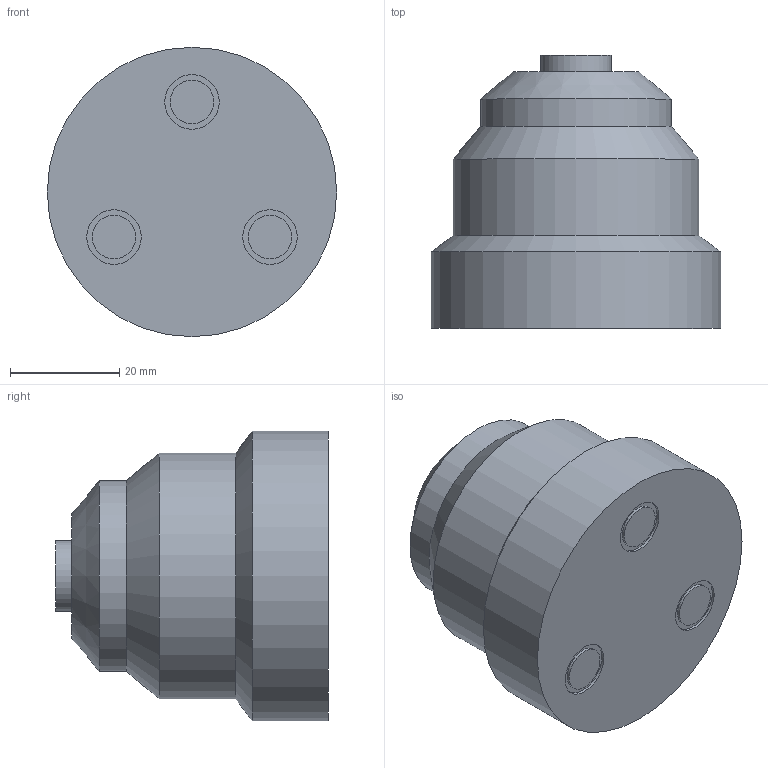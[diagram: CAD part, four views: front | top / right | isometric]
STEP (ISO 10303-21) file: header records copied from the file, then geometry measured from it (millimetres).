
FILE_DESCRIPTION(('STEP AP214'), '1');
FILE_NAME('PL625-0750 - ﾈ淸韭瑣ⅱ', '', ('UNSPECIFIED'), ('UNSPECIFIED'), 'ASCON STEP Converter 1.3', 'ASCON Math Kernel', '');
FILE_SCHEMA(('AUTOMOTIVE_DESIGN { 1 0 10303 214 3 1 1}'));
Length unit declared in the file: millimetre
Products named in the file (1): PL625-0750
Bounding box: 53 x 50 x 53 mm (x, y, z)
Volume: 74917.6 mm3; surface area: 10151.8 mm2
Topology: 1 solids, 1 shells, 22 faces, 34 edges, 21 vertices
Faces by surface type: cylinder 10, plane 9, cone 3
Full cylindrical faces by diameter (mm): 8 x3, 10 x3, 13 x1, 35 x1, 45 x1, 53 x1
Entity records: 649 total; most frequent: DIRECTION 88, CARTESIAN_POINT 65, AXIS2_PLACEMENT_3D 44, EDGE_LOOP 42, ORIENTED_EDGE 42, FACE_OUTER_BOUND 26, COLOUR_RGB 23, FILL_AREA_STYLE_COLOUR 23
